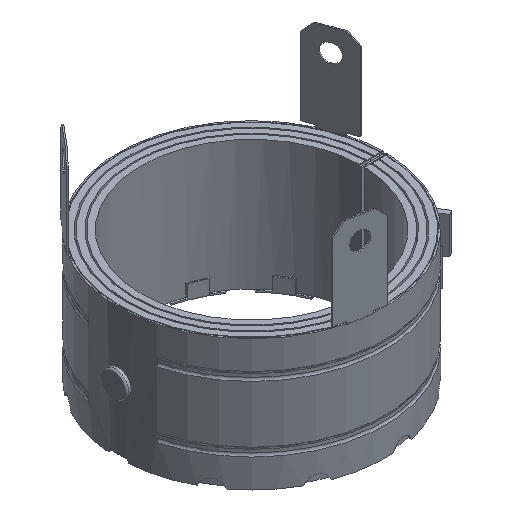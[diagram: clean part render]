
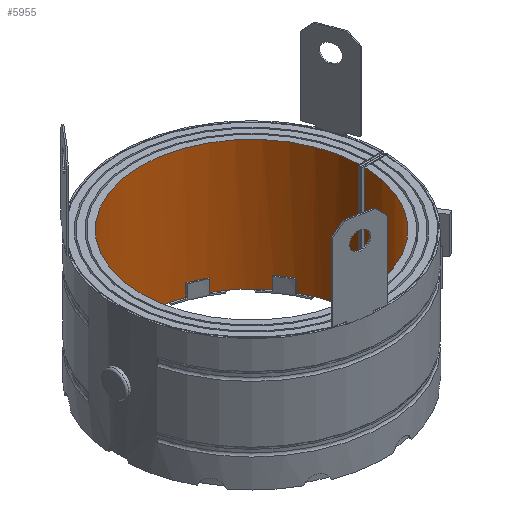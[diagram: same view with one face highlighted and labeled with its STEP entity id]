
A CAD part, isometric view. The second image highlights one B-rep face of the part: STEP entity #5955.
In plain terms, the highlighted cylindrical face has radius 42.25 mm (diameter 84.5 mm), a partial arc.
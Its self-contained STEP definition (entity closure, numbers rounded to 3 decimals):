
#252=LINE('',#9323,#746);
#261=LINE('',#9344,#755);
#746=VECTOR('',#7461,49.5);
#755=VECTOR('',#7486,49.5);
#1480=FACE_OUTER_BOUND('',#1803,.T.);
#1803=EDGE_LOOP('',(#4504,#4505,#4506,#4507,#4508,#4509,#4510,#4511,#4512,
#4513,#4514,#4515,#4516,#4517,#4518,#4519,#4520,#4521,#4522,#4523,#4524,
#4525,#4526,#4527,#4528,#4529));
#2094=CIRCLE('',#6359,42.25);
#2096=CIRCLE('',#6366,42.25);
#2098=CIRCLE('',#6371,42.25);
#2100=CIRCLE('',#6376,42.25);
#2102=CIRCLE('',#6381,42.25);
#2104=CIRCLE('',#6386,42.25);
#2106=CIRCLE('',#6391,42.25);
#2108=CIRCLE('',#6396,42.25);
#2110=CIRCLE('',#6401,42.25);
#2112=CIRCLE('',#6406,42.25);
#2114=CIRCLE('',#6411,42.25);
#2116=CIRCLE('',#6416,42.25);
#2129=CIRCLE('',#6432,42.25);
#2130=CIRCLE('',#6433,42.25);
#2131=CIRCLE('',#6434,42.25);
#2132=CIRCLE('',#6435,42.25);
#2133=CIRCLE('',#6436,42.25);
#2134=CIRCLE('',#6437,42.25);
#2135=CIRCLE('',#6438,42.25);
#2136=CIRCLE('',#6439,42.25);
#2137=CIRCLE('',#6440,42.25);
#2138=CIRCLE('',#6441,42.25);
#2139=CIRCLE('',#6442,42.25);
#2140=CIRCLE('',#6443,42.25);
#2537=VERTEX_POINT('',#9320);
#2538=VERTEX_POINT('',#9322);
#2540=VERTEX_POINT('',#9332);
#2542=VERTEX_POINT('',#9342);
#2545=VERTEX_POINT('',#9352);
#2546=VERTEX_POINT('',#9354);
#2549=VERTEX_POINT('',#9367);
#2550=VERTEX_POINT('',#9369);
#2553=VERTEX_POINT('',#9382);
#2554=VERTEX_POINT('',#9384);
#2557=VERTEX_POINT('',#9397);
#2558=VERTEX_POINT('',#9399);
#2561=VERTEX_POINT('',#9412);
#2562=VERTEX_POINT('',#9414);
#2565=VERTEX_POINT('',#9427);
#2566=VERTEX_POINT('',#9429);
#2569=VERTEX_POINT('',#9442);
#2570=VERTEX_POINT('',#9444);
#2573=VERTEX_POINT('',#9457);
#2574=VERTEX_POINT('',#9459);
#2577=VERTEX_POINT('',#9472);
#2578=VERTEX_POINT('',#9474);
#2581=VERTEX_POINT('',#9487);
#2582=VERTEX_POINT('',#9489);
#2585=VERTEX_POINT('',#9502);
#2586=VERTEX_POINT('',#9504);
#3193=EDGE_CURVE('',#2538,#2537,#252,.T.);
#3199=EDGE_CURVE('',#2537,#2540,#2094,.T.);
#3204=EDGE_CURVE('',#2542,#2540,#261,.T.);
#3209=EDGE_CURVE('',#2546,#2545,#2096,.T.);
#3217=EDGE_CURVE('',#2550,#2549,#2098,.T.);
#3225=EDGE_CURVE('',#2554,#2553,#2100,.T.);
#3233=EDGE_CURVE('',#2558,#2557,#2102,.T.);
#3241=EDGE_CURVE('',#2562,#2561,#2104,.T.);
#3249=EDGE_CURVE('',#2566,#2565,#2106,.T.);
#3257=EDGE_CURVE('',#2570,#2569,#2108,.T.);
#3265=EDGE_CURVE('',#2574,#2573,#2110,.T.);
#3273=EDGE_CURVE('',#2578,#2577,#2112,.T.);
#3281=EDGE_CURVE('',#2582,#2581,#2114,.T.);
#3289=EDGE_CURVE('',#2586,#2585,#2116,.T.);
#3305=EDGE_CURVE('',#2562,#2542,#2129,.T.);
#3306=EDGE_CURVE('',#2558,#2561,#2130,.T.);
#3307=EDGE_CURVE('',#2554,#2557,#2131,.T.);
#3308=EDGE_CURVE('',#2550,#2553,#2132,.T.);
#3309=EDGE_CURVE('',#2546,#2549,#2133,.T.);
#3310=EDGE_CURVE('',#2566,#2545,#2134,.T.);
#3311=EDGE_CURVE('',#2570,#2565,#2135,.T.);
#3312=EDGE_CURVE('',#2574,#2569,#2136,.T.);
#3313=EDGE_CURVE('',#2582,#2573,#2137,.T.);
#3314=EDGE_CURVE('',#2578,#2581,#2138,.T.);
#3315=EDGE_CURVE('',#2586,#2577,#2139,.T.);
#3316=EDGE_CURVE('',#2538,#2585,#2140,.T.);
#4504=ORIENTED_EDGE('',*,*,#3199,.T.);
#4505=ORIENTED_EDGE('',*,*,#3204,.F.);
#4506=ORIENTED_EDGE('',*,*,#3305,.F.);
#4507=ORIENTED_EDGE('',*,*,#3241,.T.);
#4508=ORIENTED_EDGE('',*,*,#3306,.F.);
#4509=ORIENTED_EDGE('',*,*,#3233,.T.);
#4510=ORIENTED_EDGE('',*,*,#3307,.F.);
#4511=ORIENTED_EDGE('',*,*,#3225,.T.);
#4512=ORIENTED_EDGE('',*,*,#3308,.F.);
#4513=ORIENTED_EDGE('',*,*,#3217,.T.);
#4514=ORIENTED_EDGE('',*,*,#3309,.F.);
#4515=ORIENTED_EDGE('',*,*,#3209,.T.);
#4516=ORIENTED_EDGE('',*,*,#3310,.F.);
#4517=ORIENTED_EDGE('',*,*,#3249,.T.);
#4518=ORIENTED_EDGE('',*,*,#3311,.F.);
#4519=ORIENTED_EDGE('',*,*,#3257,.T.);
#4520=ORIENTED_EDGE('',*,*,#3312,.F.);
#4521=ORIENTED_EDGE('',*,*,#3265,.T.);
#4522=ORIENTED_EDGE('',*,*,#3313,.F.);
#4523=ORIENTED_EDGE('',*,*,#3281,.T.);
#4524=ORIENTED_EDGE('',*,*,#3314,.F.);
#4525=ORIENTED_EDGE('',*,*,#3273,.T.);
#4526=ORIENTED_EDGE('',*,*,#3315,.F.);
#4527=ORIENTED_EDGE('',*,*,#3289,.T.);
#4528=ORIENTED_EDGE('',*,*,#3316,.F.);
#4529=ORIENTED_EDGE('',*,*,#3193,.T.);
#5459=CYLINDRICAL_SURFACE('',#6431,42.25);
#5955=ADVANCED_FACE('',(#1480),#5459,.F.);
#6359=AXIS2_PLACEMENT_3D('',#9334,#7474,#7475);
#6366=AXIS2_PLACEMENT_3D('',#9355,#7496,#7497);
#6371=AXIS2_PLACEMENT_3D('',#9370,#7512,#7513);
#6376=AXIS2_PLACEMENT_3D('',#9385,#7528,#7529);
#6381=AXIS2_PLACEMENT_3D('',#9400,#7544,#7545);
#6386=AXIS2_PLACEMENT_3D('',#9415,#7560,#7561);
#6391=AXIS2_PLACEMENT_3D('',#9430,#7576,#7577);
#6396=AXIS2_PLACEMENT_3D('',#9445,#7592,#7593);
#6401=AXIS2_PLACEMENT_3D('',#9460,#7608,#7609);
#6406=AXIS2_PLACEMENT_3D('',#9475,#7624,#7625);
#6411=AXIS2_PLACEMENT_3D('',#9490,#7640,#7641);
#6416=AXIS2_PLACEMENT_3D('',#9505,#7656,#7657);
#6431=AXIS2_PLACEMENT_3D('',#9523,#7689,#7690);
#6432=AXIS2_PLACEMENT_3D('',#9524,#7691,#7692);
#6433=AXIS2_PLACEMENT_3D('',#9525,#7693,#7694);
#6434=AXIS2_PLACEMENT_3D('',#9526,#7695,#7696);
#6435=AXIS2_PLACEMENT_3D('',#9527,#7697,#7698);
#6436=AXIS2_PLACEMENT_3D('',#9528,#7699,#7700);
#6437=AXIS2_PLACEMENT_3D('',#9529,#7701,#7702);
#6438=AXIS2_PLACEMENT_3D('',#9530,#7703,#7704);
#6439=AXIS2_PLACEMENT_3D('',#9531,#7705,#7706);
#6440=AXIS2_PLACEMENT_3D('',#9532,#7707,#7708);
#6441=AXIS2_PLACEMENT_3D('',#9533,#7709,#7710);
#6442=AXIS2_PLACEMENT_3D('',#9534,#7711,#7712);
#6443=AXIS2_PLACEMENT_3D('',#9535,#7713,#7714);
#7461=DIRECTION('',(0.,0.,1.));
#7474=DIRECTION('center_axis',(0.,0.,1.));
#7475=DIRECTION('ref_axis',(-1.,-0.024,0.));
#7486=DIRECTION('',(0.,0.,1.));
#7496=DIRECTION('center_axis',(0.,0.,-1.));
#7497=DIRECTION('ref_axis',(-1.,-0.024,0.));
#7512=DIRECTION('center_axis',(0.,0.,-1.));
#7513=DIRECTION('ref_axis',(-1.,-0.024,0.));
#7528=DIRECTION('center_axis',(0.,0.,-1.));
#7529=DIRECTION('ref_axis',(-1.,-0.024,0.));
#7544=DIRECTION('center_axis',(0.,0.,-1.));
#7545=DIRECTION('ref_axis',(-1.,-0.024,0.));
#7560=DIRECTION('center_axis',(0.,0.,-1.));
#7561=DIRECTION('ref_axis',(-1.,-0.024,0.));
#7576=DIRECTION('center_axis',(0.,0.,-1.));
#7577=DIRECTION('ref_axis',(-1.,-0.024,0.));
#7592=DIRECTION('center_axis',(0.,0.,-1.));
#7593=DIRECTION('ref_axis',(-1.,-0.024,0.));
#7608=DIRECTION('center_axis',(0.,0.,-1.));
#7609=DIRECTION('ref_axis',(-1.,-0.024,0.));
#7624=DIRECTION('center_axis',(0.,0.,-1.));
#7625=DIRECTION('ref_axis',(-1.,-0.024,0.));
#7640=DIRECTION('center_axis',(0.,0.,-1.));
#7641=DIRECTION('ref_axis',(-1.,-0.024,0.));
#7656=DIRECTION('center_axis',(0.,0.,-1.));
#7657=DIRECTION('ref_axis',(-1.,-0.024,0.));
#7689=DIRECTION('center_axis',(0.,0.,1.));
#7690=DIRECTION('ref_axis',(-1.,-0.024,0.));
#7691=DIRECTION('center_axis',(0.,0.,1.));
#7692=DIRECTION('ref_axis',(-1.,-0.024,0.));
#7693=DIRECTION('center_axis',(0.,0.,1.));
#7694=DIRECTION('ref_axis',(-1.,-0.024,0.));
#7695=DIRECTION('center_axis',(0.,0.,1.));
#7696=DIRECTION('ref_axis',(-1.,-0.024,0.));
#7697=DIRECTION('center_axis',(0.,0.,1.));
#7698=DIRECTION('ref_axis',(-1.,-0.024,0.));
#7699=DIRECTION('center_axis',(0.,0.,1.));
#7700=DIRECTION('ref_axis',(-1.,-0.024,0.));
#7701=DIRECTION('center_axis',(0.,0.,1.));
#7702=DIRECTION('ref_axis',(-1.,-0.024,0.));
#7703=DIRECTION('center_axis',(0.,0.,1.));
#7704=DIRECTION('ref_axis',(-1.,-0.024,0.));
#7705=DIRECTION('center_axis',(0.,0.,1.));
#7706=DIRECTION('ref_axis',(-1.,-0.024,0.));
#7707=DIRECTION('center_axis',(0.,0.,1.));
#7708=DIRECTION('ref_axis',(-1.,-0.024,0.));
#7709=DIRECTION('center_axis',(0.,0.,1.));
#7710=DIRECTION('ref_axis',(-1.,-0.024,0.));
#7711=DIRECTION('center_axis',(0.,0.,1.));
#7712=DIRECTION('ref_axis',(-1.,-0.024,0.));
#7713=DIRECTION('center_axis',(0.,0.,1.));
#7714=DIRECTION('ref_axis',(-1.,-0.024,0.));
#9320=CARTESIAN_POINT('',(42.238,1.,25.));
#9322=CARTESIAN_POINT('',(42.238,1.,-24.5));
#9323=CARTESIAN_POINT('',(42.238,1.,-24.5));
#9332=CARTESIAN_POINT('',(42.238,-1.,25.));
#9334=CARTESIAN_POINT('Origin',(0.,0.,25.));
#9342=CARTESIAN_POINT('',(42.238,-1.,-24.5));
#9344=CARTESIAN_POINT('',(42.238,-1.,-24.5));
#9352=CARTESIAN_POINT('',(-37.462,-19.536,-24.5));
#9354=CARTESIAN_POINT('',(-33.333,-25.961,-24.5));
#9355=CARTESIAN_POINT('Origin',(0.,0.,-24.5));
#9367=CARTESIAN_POINT('',(-20.953,-36.688,-24.5));
#9369=CARTESIAN_POINT('',(-14.006,-39.861,-24.5));
#9370=CARTESIAN_POINT('Origin',(0.,0.,-24.5));
#9382=CARTESIAN_POINT('',(2.208,-42.192,-24.5));
#9384=CARTESIAN_POINT('',(9.768,-41.105,-24.5));
#9385=CARTESIAN_POINT('Origin',(0.,0.,-24.5));
#9397=CARTESIAN_POINT('',(24.669,-34.301,-24.5));
#9399=CARTESIAN_POINT('',(30.441,-29.299,-24.5));
#9400=CARTESIAN_POINT('Origin',(0.,0.,-24.5));
#9412=CARTESIAN_POINT('',(39.297,-15.519,-24.5));
#9414=CARTESIAN_POINT('',(41.449,-8.19,-24.5));
#9415=CARTESIAN_POINT('Origin',(0.,0.,-24.5));
#9427=CARTESIAN_POINT('',(-42.077,3.819,-24.5));
#9429=CARTESIAN_POINT('',(-42.077,-3.819,-24.5));
#9430=CARTESIAN_POINT('Origin',(0.,0.,-24.5));
#9442=CARTESIAN_POINT('',(-33.333,25.961,-24.5));
#9444=CARTESIAN_POINT('',(-37.462,19.536,-24.5));
#9445=CARTESIAN_POINT('Origin',(0.,0.,-24.5));
#9457=CARTESIAN_POINT('',(-14.006,39.861,-24.5));
#9459=CARTESIAN_POINT('',(-20.953,36.688,-24.5));
#9460=CARTESIAN_POINT('Origin',(0.,0.,-24.5));
#9472=CARTESIAN_POINT('',(30.441,29.299,-24.5));
#9474=CARTESIAN_POINT('',(24.669,34.301,-24.5));
#9475=CARTESIAN_POINT('Origin',(0.,0.,-24.5));
#9487=CARTESIAN_POINT('',(9.768,41.105,-24.5));
#9489=CARTESIAN_POINT('',(2.208,42.192,-24.5));
#9490=CARTESIAN_POINT('Origin',(0.,0.,-24.5));
#9502=CARTESIAN_POINT('',(41.449,8.19,-24.5));
#9504=CARTESIAN_POINT('',(39.297,15.519,-24.5));
#9505=CARTESIAN_POINT('Origin',(0.,0.,-24.5));
#9523=CARTESIAN_POINT('Origin',(0.,0.,-24.5));
#9524=CARTESIAN_POINT('Origin',(0.,0.,-24.5));
#9525=CARTESIAN_POINT('Origin',(0.,0.,-24.5));
#9526=CARTESIAN_POINT('Origin',(0.,0.,-24.5));
#9527=CARTESIAN_POINT('Origin',(0.,0.,-24.5));
#9528=CARTESIAN_POINT('Origin',(0.,0.,-24.5));
#9529=CARTESIAN_POINT('Origin',(0.,0.,-24.5));
#9530=CARTESIAN_POINT('Origin',(0.,0.,-24.5));
#9531=CARTESIAN_POINT('Origin',(0.,0.,-24.5));
#9532=CARTESIAN_POINT('Origin',(0.,0.,-24.5));
#9533=CARTESIAN_POINT('Origin',(0.,0.,-24.5));
#9534=CARTESIAN_POINT('Origin',(0.,0.,-24.5));
#9535=CARTESIAN_POINT('Origin',(0.,0.,-24.5));
